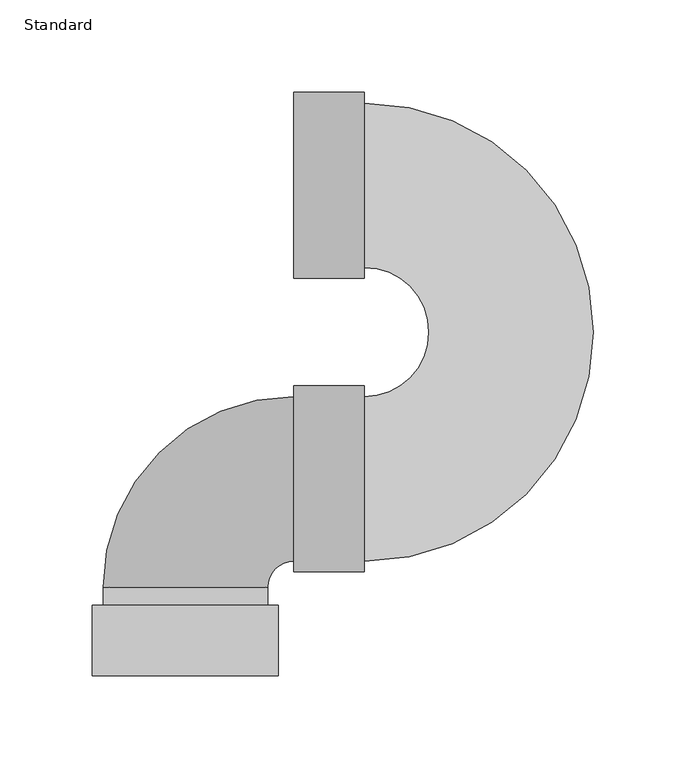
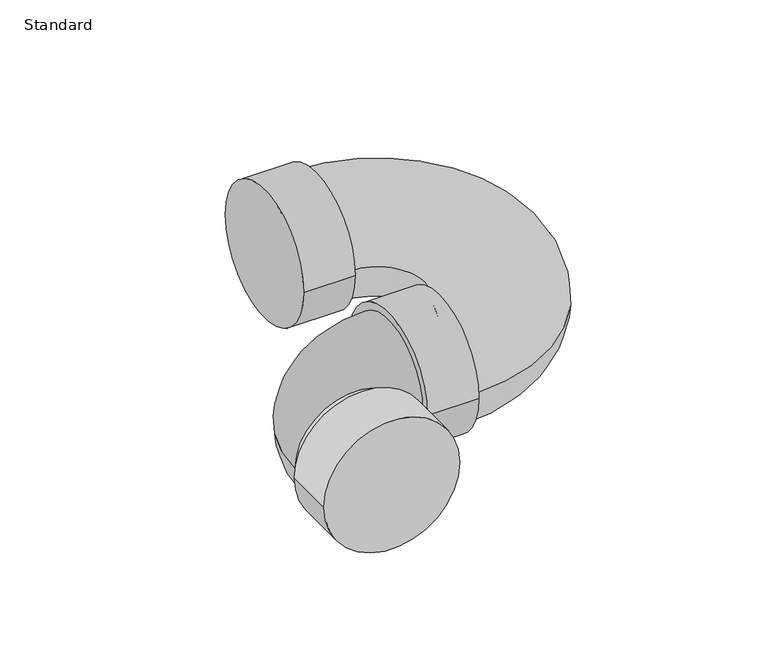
"""IFC4 building model written with IfcOpenShell, lengths in millimetres: pipe fitting geometry, GES P TRAP PVC Sch 40 - DWV : Standard."""

from ifc_helpers import new_model, si_unit, point, frame, origin, place, context, project, spatial, circle_curve, ellipse_curve, trimmed, source, transform, mapped, element, save
from ifc_brep_helpers import plane_surface, cylinder_surface, revolved_surface, advanced_brep


def standard_90b48955(model_context):
    return source(origin(), model_context, "Body", "AdvancedBrep", [
        advanced_brep(
        [(-50.2666, -265.1125, 0.0), (50.2666, -265.1125, 0.0), (-50.2666, -227.0125, 0.0), (50.2666, -227.0125, 0.0), (-44.45, -227.0125, 0.0), (44.45, -227.0125, 0.0), (44.45, -217.4875, 0.0), (58.7375, -203.2, 0.0), (58.7375, -114.3, 0.0), (-44.45, -217.4875, 0.0), (96.8375, 44.45, 0.0), (96.8375, -44.45, 0.0), (96.8375, -114.3, 0.0), (96.8375, -203.2, 0.0), (58.7375, -108.4834, 0.0), (58.7375, -209.0166, 0.0), (96.8375, -108.4834, 0.0), (96.8375, -209.0166, 0.0), (58.7375, 50.2666, 0.0), (58.7375, -50.2666, 0.0), (96.8375, 50.2666, 0.0), (96.8375, -50.2666, 0.0)],
        [
            (0, 1, circle_curve(frame((0.0, -265.1125, 0.0), z_axis=(0.0, -1.0, 0.0), x_axis=(1.0, 0.0, 0.0)), 50.2666)),
            (1, 0, circle_curve(frame((0.0, -265.1125, 0.0), z_axis=(0.0, -1.0, 0.0), x_axis=(1.0, 0.0, 0.0)), 50.2666)),
            (2, 3, circle_curve(frame((0.0, -227.0125, 0.0), z_axis=(0.0, 1.0, 0.0), x_axis=(1.0, 0.0, 0.0)), 50.2666)),
            (3, 2, circle_curve(frame((0.0, -227.0125, 0.0), z_axis=(0.0, 1.0, 0.0), x_axis=(1.0, 0.0, 0.0)), 50.2666)),
            (4, 5, circle_curve(frame((0.0, -227.0125, 0.0), z_axis=(0.0, -1.0, 0.0), x_axis=(1.0, 0.0, 0.0)), 44.45)),
            (5, 4, circle_curve(frame((0.0, -227.0125, 0.0), z_axis=(0.0, -1.0, 0.0), x_axis=(1.0, 0.0, 0.0)), 44.45)),
            (1, 3),
            (2, 0),
            (6, 7, circle_curve(frame((58.7375, -217.4875, 0.0), z_axis=(0.0, 0.0, -1.0), x_axis=(-1.0, 0.0, 0.0)), 14.2875)),
            (7, 8, circle_curve(frame((58.7375, -158.75, 0.0), z_axis=(-1.0, 0.0, 0.0), x_axis=(0.0, -1.0, 0.0)), 44.45)),
            (8, 9, circle_curve(frame((58.7375, -217.4875, 0.0), z_axis=(0.0, 0.0, 1.0), x_axis=(-1.0, 0.0, 0.0)), 103.1875)),
            (9, 6, circle_curve(frame((0.0, -217.4875, 0.0), z_axis=(0.0, 1.0, 0.0), x_axis=(1.0, 0.0, 0.0)), 44.45)),
            (8, 7, circle_curve(frame((58.7375, -158.75, 0.0), z_axis=(-1.0, 0.0, 0.0), x_axis=(0.0, -1.0, 0.0)), 44.45)),
            (6, 9, circle_curve(frame((0.0, -217.4875, 0.0), z_axis=(0.0, 1.0, 0.0), x_axis=(1.0, 0.0, 0.0)), 44.45)),
            (10, 11, circle_curve(frame((96.8375, 0.0, 0.0), z_axis=(1.0, 0.0, 0.0), x_axis=(0.0, 1.0, 0.0)), 44.45)),
            (11, 12, circle_curve(frame((96.8375, -79.375, 0.0), z_axis=(0.0, 0.0, -1.0), x_axis=(0.0, -1.0, 0.0)), 34.925)),
            (12, 13, circle_curve(frame((96.8375, -158.75, 0.0), z_axis=(1.0, 0.0, 0.0), x_axis=(0.0, -1.0, 0.0)), 44.45)),
            (13, 10, circle_curve(frame((96.8375, -79.375, 0.0), z_axis=(0.0, 0.0, 1.0), x_axis=(0.0, -1.0, 0.0)), 123.825)),
            (13, 12, circle_curve(frame((96.8375, -158.75, 0.0), z_axis=(1.0, 0.0, 0.0), x_axis=(0.0, -1.0, 0.0)), 44.45)),
            (11, 10, circle_curve(frame((96.8375, 0.0, 0.0), z_axis=(1.0, 0.0, 0.0), x_axis=(0.0, 1.0, 0.0)), 44.45)),
            (14, 15, circle_curve(frame((58.7375, -158.75, 0.0), z_axis=(-1.0, 0.0, 0.0), x_axis=(0.0, -1.0, 0.0)), 50.2666)),
            (15, 14, circle_curve(frame((58.7375, -158.75, 0.0), z_axis=(-1.0, 0.0, 0.0), x_axis=(0.0, -1.0, 0.0)), 50.2666)),
            (16, 17, circle_curve(frame((96.8375, -158.75, 0.0), z_axis=(1.0, 0.0, 0.0), x_axis=(0.0, -1.0, 0.0)), 50.2666)),
            (17, 16, circle_curve(frame((96.8375, -158.75, 0.0), z_axis=(1.0, 0.0, 0.0), x_axis=(0.0, -1.0, 0.0)), 50.2666)),
            (15, 17),
            (16, 14),
            (18, 19, circle_curve(frame((58.7375, 0.0, 0.0), z_axis=(-1.0, 0.0, 0.0), x_axis=(0.0, -1.0, 0.0)), 50.2666)),
            (19, 18, circle_curve(frame((58.7375, 0.0, 0.0), z_axis=(-1.0, 0.0, 0.0), x_axis=(0.0, -1.0, 0.0)), 50.2666)),
            (20, 21, circle_curve(frame((96.8375, 0.0, 0.0), z_axis=(1.0, 0.0, 0.0), x_axis=(0.0, -1.0, 0.0)), 50.2666)),
            (21, 20, circle_curve(frame((96.8375, 0.0, 0.0), z_axis=(1.0, 0.0, 0.0), x_axis=(0.0, -1.0, 0.0)), 50.2666)),
            (19, 21),
            (20, 18),
            (9, 4),
            (5, 6),
        ],
        [
            plane_surface(frame((0.0, -265.1125, 0.0), z_axis=(0.0, -1.0, 0.0), x_axis=(0.0, 0.0, 1.0))),
            plane_surface(frame((0.0, -227.0125, 0.0), z_axis=(0.0, 1.0, 0.0), x_axis=(0.0, 0.0, 1.0))),
            cylinder_surface(frame((0.0, -265.1125, 0.0), z_axis=(0.0, -1.0, 0.0), x_axis=(1.0, 0.0, 0.0)), 50.2666),
            revolved_surface(trimmed(ellipse_curve(frame((0.0, -217.4875, 0.0), z_axis=(0.0, 1.0, 0.0), x_axis=(1.0, 0.0, 0.0)), 44.45, 44.45), [point((-44.45, -217.4875, 0.0))], [point((44.45, -217.4875, 0.0))], True, "CARTESIAN"), (58.7375, -217.4875, 0.0), (0.0, 0.0, 1.0)),
            revolved_surface(trimmed(ellipse_curve(frame((0.0, -217.4875, 0.0), z_axis=(0.0, 1.0, 0.0), x_axis=(1.0, 0.0, 0.0)), 44.45, 44.45), [point((44.45, -217.4875, 0.0))], [point((-44.45, -217.4875, 0.0))], True, "CARTESIAN"), (58.7375, -217.4875, 0.0), (0.0, 0.0, 1.0)),
            revolved_surface(trimmed(ellipse_curve(frame((96.8375, -158.75, 0.0), z_axis=(1.0, 0.0, 0.0), x_axis=(0.0, -1.0, 0.0)), 44.45, 44.45), [point((96.8375, -114.3, 0.0))], [point((96.8375, -203.2, 0.0))], True, "CARTESIAN"), (96.8375, -79.375, 0.0), (0.0, 0.0, -1.0)),
            revolved_surface(trimmed(ellipse_curve(frame((96.8375, -158.75, 0.0), z_axis=(1.0, 0.0, 0.0), x_axis=(0.0, -1.0, 0.0)), 44.45, 44.45), [point((96.8375, -203.2, 0.0))], [point((96.8375, -114.3, 0.0))], True, "CARTESIAN"), (96.8375, -79.375, 0.0), (0.0, 0.0, -1.0)),
            plane_surface(frame((58.7375, -158.75, 0.0), z_axis=(-1.0, 0.0, 0.0), x_axis=(0.0, 0.0, 1.0))),
            plane_surface(frame((96.8375, -158.75, 0.0), z_axis=(1.0, 0.0, 0.0), x_axis=(0.0, 0.0, 1.0))),
            cylinder_surface(frame((58.7375, -158.75, 0.0), z_axis=(-1.0, 0.0, 0.0), x_axis=(0.0, -1.0, 0.0)), 50.2666),
            plane_surface(frame((58.7375, 0.0, 0.0), z_axis=(-1.0, 0.0, 0.0), x_axis=(0.0, 0.0, 1.0))),
            plane_surface(frame((96.8375, 0.0, 0.0), z_axis=(1.0, 0.0, 0.0), x_axis=(0.0, 0.0, 1.0))),
            cylinder_surface(frame((58.7375, 0.0, 0.0), z_axis=(-1.0, 0.0, 0.0), x_axis=(0.0, -1.0, 0.0)), 50.2666),
            cylinder_surface(frame((0.0, -265.1125, 0.0), z_axis=(0.0, -1.0, 0.0), x_axis=(1.0, 0.0, 0.0)), 44.45),
        ],
        [
            (0, [[1, 2]]),
            (1, [[3, 4], [5, 6]]),
            (2, [[7, -3, 8, -2]]),
            (2, [[-8, -4, -7, -1]]),
            (3, [[9, 10, 11, 12]]),
            (4, [[-11, 13, -9, 14]]),
            (5, [[15, 16, 17, 18]]),
            (6, [[19, -16, 20, -18]]),
            (7, [[21, 22], [-13, -10]]),
            (8, [[23, 24], [-19, -17]]),
            (9, [[25, -23, 26, -22]]),
            (9, [[-26, -24, -25, -21]]),
            (10, [[27, 28]]),
            (11, [[29, 30], [-20, -15]]),
            (12, [[31, -29, 32, -28]]),
            (12, [[-32, -30, -31, -27]]),
            (13, [[33, -6, 34, -12]]),
            (13, [[-34, -5, -33, -14]]),
        ],
    ),
    ])


if __name__ == "__main__":
    model = new_model("IFC4")
    model_context = context("Model", 3, world=origin())
    ifc_project = project(units=[si_unit("LENGTHUNIT", "METRE", prefix="MILLI")], contexts=[model_context])
    site = spatial("IfcSite", under=ifc_project)
    building = spatial("IfcBuilding", under=site)
    placement = place(None, origin())
    standard_shape = standard_90b48955(model_context)
    element("IfcPipeFitting", 1, ObjectType="GES P TRAP PVC Sch 40 - DWV : Standard", at=placement, inside=building, context=model_context, shape_type="MappedRepresentation", body=[
        mapped(standard_shape, transform((0.0, 0.0, 0.0), x_axis=(1.0, 0.0, 0.0), y_axis=(0.0, 1.0, 0.0), z_axis=(0.0, 0.0, 1.0))),
    ])
    save(model, "model.ifc")
